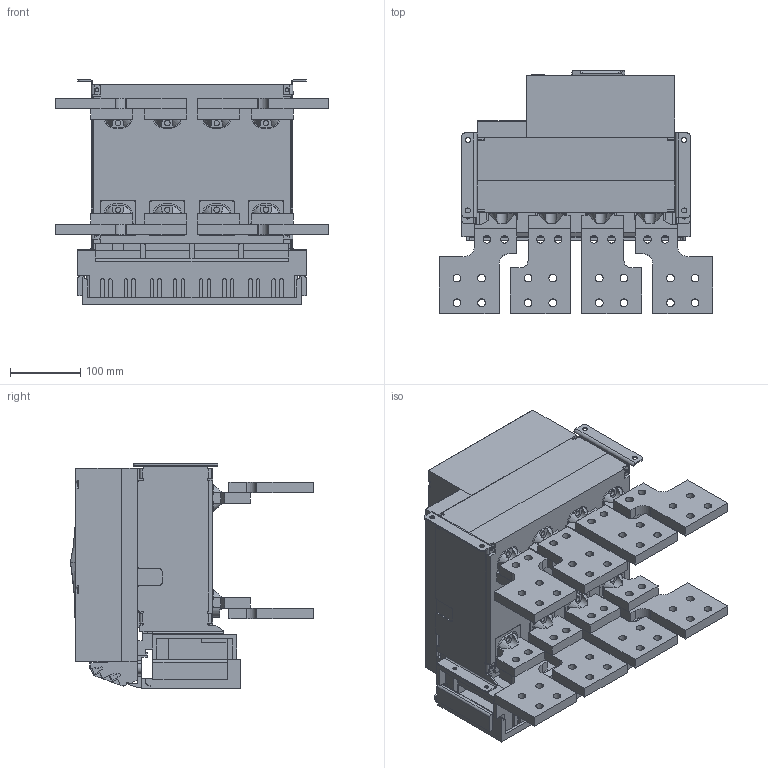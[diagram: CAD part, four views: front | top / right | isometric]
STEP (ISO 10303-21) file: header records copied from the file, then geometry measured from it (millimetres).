
FILE_DESCRIPTION((''),'2;1');
FILE_NAME('NA8G-1600-1600-F-4P-H_ASM','2019-06-03T11:15:54',('lcc'),(''),'CREO PARAMETRIC BY PTC INC, 2018020','CREO PARAMETRIC BY PTC INC, 2018020','');
FILE_SCHEMA(('CONFIG_CONTROL_DESIGN','SHAPE_APPEARANCE_LAYERS_GROUPS'));
Products named in the file (22): 1600-JIZUO-4P; 1600-DIBAN-4P; 8-050-245; 8-050-246; 8-300-162-2; 8-005-238; 8-300-163; 8-015-020; 8ZTD-064-138; 8ZTD-024-689; 8ZTD-860-511; 1600-DUANZI-CTS_ASM; 8-253-348; 8-253-349; 5-235-147; 8-253-309; 8ZTD-580-187-1; 8ZTD-580-188-1; 8-211-087; 8-580-208; 8-580-209; NA8G-1600-1600-F-4P-H_ASM
Assembly tree (49 placements, depth 3):
  NA8G-1600-1600-F-4P-H_ASM
    1600-JIZUO-4P
    1600-DIBAN-4P
    8-050-245
    8-050-246
    8-300-162-2
    8-005-238
    8-300-163
    8-015-020
    1600-DUANZI-CTS_ASM
      8ZTD-064-138
      8ZTD-024-689  x14
      8ZTD-860-511
    8-253-348
    8-253-349
    5-235-147
    8-253-309
    8ZTD-580-187-1  x4
    8ZTD-580-188-1  x4
    8-211-087  x4
    8-580-208  x4
    8-580-209  x4
Bounding box: 388 x 345 x 318.5 mm (x, y, z)
Volume: 10052559.8 mm3; surface area: 1873711 mm2
Topology: 48 solids, 67 shells, 5504 faces, 15294 edges, 10067 vertices
Faces by surface type: plane 4339, cylinder 1094, cone 32, torus 18, bspline 10, sphere 10, extrusion 1
Entity records: 132499 total; most frequent: CARTESIAN_POINT 19035, ORIENTED_EDGE 17466, DIRECTION 16678, PRESENTATION_STYLE_ASSIGNMENT 9234, STYLED_ITEM 9219, EDGE_CURVE 8736, CURVE_STYLE 8613, VECTOR 7084
